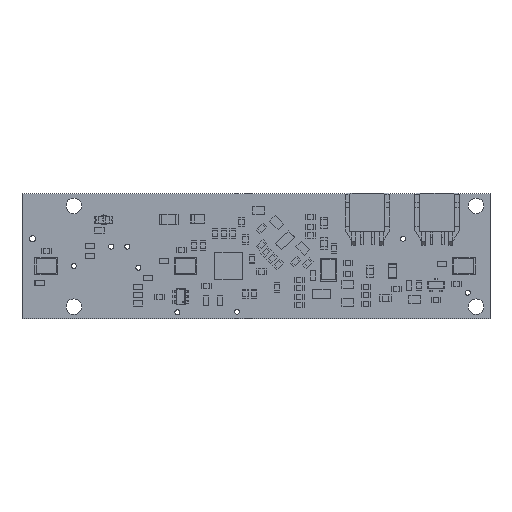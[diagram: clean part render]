
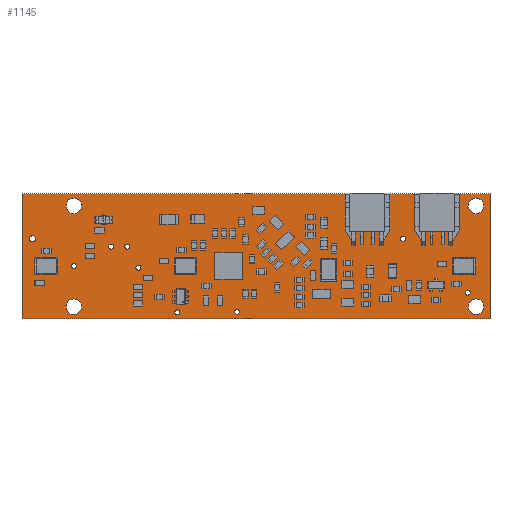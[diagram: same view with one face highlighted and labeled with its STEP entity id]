
A CAD part, top view. The second image highlights one B-rep face of the part: STEP entity #1145.
In plain terms, the highlighted planar face has unit normal (0, 0, 1).
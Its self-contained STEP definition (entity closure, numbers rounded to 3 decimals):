
#368 = VERTEX_POINT('',#369);
#369 = CARTESIAN_POINT('',(0.,0.,1.621));
#375 = EDGE_CURVE('',#368,#376,#378,.T.);
#376 = VERTEX_POINT('',#377);
#377 = CARTESIAN_POINT('',(84.,0.,1.621));
#378 = LINE('',#379,#380);
#379 = CARTESIAN_POINT('',(0.,0.,1.621));
#380 = VECTOR('',#381,1.);
#381 = DIRECTION('',(1.,0.,0.));
#406 = EDGE_CURVE('',#376,#407,#409,.T.);
#407 = VERTEX_POINT('',#408);
#408 = CARTESIAN_POINT('',(84.,22.5,1.621));
#409 = LINE('',#410,#411);
#410 = CARTESIAN_POINT('',(84.,0.,1.621));
#411 = VECTOR('',#412,1.);
#412 = DIRECTION('',(0.,1.,0.));
#437 = EDGE_CURVE('',#407,#438,#440,.T.);
#438 = VERTEX_POINT('',#439);
#439 = CARTESIAN_POINT('',(0.,22.5,1.621));
#440 = LINE('',#441,#442);
#441 = CARTESIAN_POINT('',(84.,22.5,1.621));
#442 = VECTOR('',#443,1.);
#443 = DIRECTION('',(-1.,0.,0.));
#468 = EDGE_CURVE('',#438,#368,#469,.T.);
#469 = LINE('',#470,#471);
#470 = CARTESIAN_POINT('',(0.,22.5,1.621));
#471 = VECTOR('',#472,1.);
#472 = DIRECTION('',(0.,-1.,0.));
#492 = VERTEX_POINT('',#493);
#493 = CARTESIAN_POINT('',(5.4,9.5,1.621));
#499 = EDGE_CURVE('',#492,#492,#500,.T.);
#500 = CIRCLE('',#501,0.4);
#501 = AXIS2_PLACEMENT_3D('',#502,#503,#504);
#502 = CARTESIAN_POINT('',(5.,9.5,1.621));
#503 = DIRECTION('',(0.,0.,1.));
#504 = DIRECTION('',(1.,0.,0.));
#525 = VERTEX_POINT('',#526);
#526 = CARTESIAN_POINT('',(9.75,9.5,1.621));
#532 = EDGE_CURVE('',#525,#525,#533,.T.);
#533 = CIRCLE('',#534,0.45);
#534 = AXIS2_PLACEMENT_3D('',#535,#536,#537);
#535 = CARTESIAN_POINT('',(9.3,9.5,1.621));
#536 = DIRECTION('',(0.,0.,1.));
#537 = DIRECTION('',(1.,0.,0.));
#558 = VERTEX_POINT('',#559);
#559 = CARTESIAN_POINT('',(10.7,2.2,1.621));
#565 = EDGE_CURVE('',#558,#558,#566,.T.);
#566 = CIRCLE('',#567,1.4);
#567 = AXIS2_PLACEMENT_3D('',#568,#569,#570);
#568 = CARTESIAN_POINT('',(9.3,2.2,1.621));
#569 = DIRECTION('',(0.,0.,1.));
#570 = DIRECTION('',(1.,0.,0.));
#591 = VERTEX_POINT('',#592);
#592 = CARTESIAN_POINT('',(21.35,9.2,1.621));
#598 = EDGE_CURVE('',#591,#591,#599,.T.);
#599 = CIRCLE('',#600,0.45);
#600 = AXIS2_PLACEMENT_3D('',#601,#602,#603);
#601 = CARTESIAN_POINT('',(20.9,9.2,1.621));
#602 = DIRECTION('',(0.,0.,1.));
#603 = DIRECTION('',(1.,0.,0.));
#624 = VERTEX_POINT('',#625);
#625 = CARTESIAN_POINT('',(2.45,14.4,1.621));
#631 = EDGE_CURVE('',#624,#624,#632,.T.);
#632 = CIRCLE('',#633,0.55);
#633 = AXIS2_PLACEMENT_3D('',#634,#635,#636);
#634 = CARTESIAN_POINT('',(1.9,14.4,1.621));
#635 = DIRECTION('',(0.,0.,1.));
#636 = DIRECTION('',(1.,0.,0.));
#657 = VERTEX_POINT('',#658);
#658 = CARTESIAN_POINT('',(10.7,20.3,1.621));
#664 = EDGE_CURVE('',#657,#657,#665,.T.);
#665 = CIRCLE('',#666,1.4);
#666 = AXIS2_PLACEMENT_3D('',#667,#668,#669);
#667 = CARTESIAN_POINT('',(9.3,20.3,1.621));
#668 = DIRECTION('',(0.,0.,1.));
#669 = DIRECTION('',(1.,0.,0.));
#690 = VERTEX_POINT('',#691);
#691 = CARTESIAN_POINT('',(19.35,13.,1.621));
#697 = EDGE_CURVE('',#690,#690,#698,.T.);
#698 = CIRCLE('',#699,0.45);
#699 = AXIS2_PLACEMENT_3D('',#700,#701,#702);
#700 = CARTESIAN_POINT('',(18.9,13.,1.621));
#701 = DIRECTION('',(0.,0.,1.));
#702 = DIRECTION('',(1.,0.,0.));
#723 = VERTEX_POINT('',#724);
#724 = CARTESIAN_POINT('',(15.575,17.8,1.621));
#730 = EDGE_CURVE('',#723,#723,#731,.T.);
#731 = CIRCLE('',#732,0.875);
#732 = AXIS2_PLACEMENT_3D('',#733,#734,#735);
#733 = CARTESIAN_POINT('',(14.7,17.8,1.621));
#734 = DIRECTION('',(0.,0.,1.));
#735 = DIRECTION('',(1.,0.,0.));
#756 = VERTEX_POINT('',#757);
#757 = CARTESIAN_POINT('',(16.45,13.,1.621));
#763 = EDGE_CURVE('',#756,#756,#764,.T.);
#764 = CIRCLE('',#765,0.45);
#765 = AXIS2_PLACEMENT_3D('',#766,#767,#768);
#766 = CARTESIAN_POINT('',(16.,13.,1.621));
#767 = DIRECTION('',(0.,0.,1.));
#768 = DIRECTION('',(1.,0.,0.));
#789 = VERTEX_POINT('',#790);
#790 = CARTESIAN_POINT('',(28.35,1.2,1.621));
#796 = EDGE_CURVE('',#789,#789,#797,.T.);
#797 = CIRCLE('',#798,0.45);
#798 = AXIS2_PLACEMENT_3D('',#799,#800,#801);
#799 = CARTESIAN_POINT('',(27.9,1.2,1.621));
#800 = DIRECTION('',(0.,0.,1.));
#801 = DIRECTION('',(1.,0.,0.));
#822 = VERTEX_POINT('',#823);
#823 = CARTESIAN_POINT('',(39.05,1.3,1.621));
#829 = EDGE_CURVE('',#822,#822,#830,.T.);
#830 = CIRCLE('',#831,0.45);
#831 = AXIS2_PLACEMENT_3D('',#832,#833,#834);
#832 = CARTESIAN_POINT('',(38.6,1.3,1.621));
#833 = DIRECTION('',(0.,0.,1.));
#834 = DIRECTION('',(1.,0.,0.));
#855 = VERTEX_POINT('',#856);
#856 = CARTESIAN_POINT('',(82.9,2.2,1.621));
#862 = EDGE_CURVE('',#855,#855,#863,.T.);
#863 = CIRCLE('',#864,1.4);
#864 = AXIS2_PLACEMENT_3D('',#865,#866,#867);
#865 = CARTESIAN_POINT('',(81.5,2.2,1.621));
#866 = DIRECTION('',(0.,0.,1.));
#867 = DIRECTION('',(1.,0.,0.));
#888 = VERTEX_POINT('',#889);
#889 = CARTESIAN_POINT('',(80.45,4.7,1.621));
#895 = EDGE_CURVE('',#888,#888,#896,.T.);
#896 = CIRCLE('',#897,0.45);
#897 = AXIS2_PLACEMENT_3D('',#898,#899,#900);
#898 = CARTESIAN_POINT('',(80.,4.7,1.621));
#899 = DIRECTION('',(0.,0.,1.));
#900 = DIRECTION('',(1.,0.,0.));
#921 = VERTEX_POINT('',#922);
#922 = CARTESIAN_POINT('',(55.4,9.48,1.621));
#928 = EDGE_CURVE('',#921,#921,#929,.T.);
#929 = CIRCLE('',#930,0.4);
#930 = AXIS2_PLACEMENT_3D('',#931,#932,#933);
#931 = CARTESIAN_POINT('',(55.,9.48,1.621));
#932 = DIRECTION('',(0.,0.,1.));
#933 = DIRECTION('',(1.,0.,0.));
#954 = VERTEX_POINT('',#955);
#955 = CARTESIAN_POINT('',(30.4,9.5,1.621));
#961 = EDGE_CURVE('',#954,#954,#962,.T.);
#962 = CIRCLE('',#963,0.4);
#963 = AXIS2_PLACEMENT_3D('',#964,#965,#966);
#964 = CARTESIAN_POINT('',(30.,9.5,1.621));
#965 = DIRECTION('',(0.,0.,1.));
#966 = DIRECTION('',(1.,0.,0.));
#987 = VERTEX_POINT('',#988);
#988 = CARTESIAN_POINT('',(80.4,9.5,1.621));
#994 = EDGE_CURVE('',#987,#987,#995,.T.);
#995 = CIRCLE('',#996,0.4);
#996 = AXIS2_PLACEMENT_3D('',#997,#998,#999);
#997 = CARTESIAN_POINT('',(80.,9.5,1.621));
#998 = DIRECTION('',(0.,0.,1.));
#999 = DIRECTION('',(1.,0.,0.));
#1020 = VERTEX_POINT('',#1021);
#1021 = CARTESIAN_POINT('',(68.85,14.4,1.621));
#1027 = EDGE_CURVE('',#1020,#1020,#1028,.T.);
#1028 = CIRCLE('',#1029,0.45);
#1029 = AXIS2_PLACEMENT_3D('',#1030,#1031,#1032);
#1030 = CARTESIAN_POINT('',(68.4,14.4,1.621));
#1031 = DIRECTION('',(0.,0.,1.));
#1032 = DIRECTION('',(1.,0.,0.));
#1053 = VERTEX_POINT('',#1054);
#1054 = CARTESIAN_POINT('',(82.9,20.3,1.621));
#1060 = EDGE_CURVE('',#1053,#1053,#1061,.T.);
#1061 = CIRCLE('',#1062,1.4);
#1062 = AXIS2_PLACEMENT_3D('',#1063,#1064,#1065);
#1063 = CARTESIAN_POINT('',(81.5,20.3,1.621));
#1064 = DIRECTION('',(0.,0.,1.));
#1065 = DIRECTION('',(1.,0.,0.));
#1145 = ADVANCED_FACE('',(#1146,#1152,#1155,#1158,#1161,#1164,#1167,
    #1170,#1173,#1176,#1179,#1182,#1185,#1188,#1191,#1194,#1197,#1200,
    #1203),#1206,.F.);
#1146 = FACE_BOUND('',#1147,.T.);
#1147 = EDGE_LOOP('',(#1148,#1149,#1150,#1151));
#1148 = ORIENTED_EDGE('',*,*,#375,.T.);
#1149 = ORIENTED_EDGE('',*,*,#406,.T.);
#1150 = ORIENTED_EDGE('',*,*,#437,.T.);
#1151 = ORIENTED_EDGE('',*,*,#468,.T.);
#1152 = FACE_BOUND('',#1153,.F.);
#1153 = EDGE_LOOP('',(#1154));
#1154 = ORIENTED_EDGE('',*,*,#499,.T.);
#1155 = FACE_BOUND('',#1156,.F.);
#1156 = EDGE_LOOP('',(#1157));
#1157 = ORIENTED_EDGE('',*,*,#532,.T.);
#1158 = FACE_BOUND('',#1159,.F.);
#1159 = EDGE_LOOP('',(#1160));
#1160 = ORIENTED_EDGE('',*,*,#565,.T.);
#1161 = FACE_BOUND('',#1162,.F.);
#1162 = EDGE_LOOP('',(#1163));
#1163 = ORIENTED_EDGE('',*,*,#598,.T.);
#1164 = FACE_BOUND('',#1165,.F.);
#1165 = EDGE_LOOP('',(#1166));
#1166 = ORIENTED_EDGE('',*,*,#631,.T.);
#1167 = FACE_BOUND('',#1168,.F.);
#1168 = EDGE_LOOP('',(#1169));
#1169 = ORIENTED_EDGE('',*,*,#664,.T.);
#1170 = FACE_BOUND('',#1171,.F.);
#1171 = EDGE_LOOP('',(#1172));
#1172 = ORIENTED_EDGE('',*,*,#697,.T.);
#1173 = FACE_BOUND('',#1174,.F.);
#1174 = EDGE_LOOP('',(#1175));
#1175 = ORIENTED_EDGE('',*,*,#730,.T.);
#1176 = FACE_BOUND('',#1177,.F.);
#1177 = EDGE_LOOP('',(#1178));
#1178 = ORIENTED_EDGE('',*,*,#763,.T.);
#1179 = FACE_BOUND('',#1180,.F.);
#1180 = EDGE_LOOP('',(#1181));
#1181 = ORIENTED_EDGE('',*,*,#796,.T.);
#1182 = FACE_BOUND('',#1183,.F.);
#1183 = EDGE_LOOP('',(#1184));
#1184 = ORIENTED_EDGE('',*,*,#829,.T.);
#1185 = FACE_BOUND('',#1186,.F.);
#1186 = EDGE_LOOP('',(#1187));
#1187 = ORIENTED_EDGE('',*,*,#862,.T.);
#1188 = FACE_BOUND('',#1189,.F.);
#1189 = EDGE_LOOP('',(#1190));
#1190 = ORIENTED_EDGE('',*,*,#895,.T.);
#1191 = FACE_BOUND('',#1192,.F.);
#1192 = EDGE_LOOP('',(#1193));
#1193 = ORIENTED_EDGE('',*,*,#928,.T.);
#1194 = FACE_BOUND('',#1195,.F.);
#1195 = EDGE_LOOP('',(#1196));
#1196 = ORIENTED_EDGE('',*,*,#961,.T.);
#1197 = FACE_BOUND('',#1198,.F.);
#1198 = EDGE_LOOP('',(#1199));
#1199 = ORIENTED_EDGE('',*,*,#994,.T.);
#1200 = FACE_BOUND('',#1201,.F.);
#1201 = EDGE_LOOP('',(#1202));
#1202 = ORIENTED_EDGE('',*,*,#1027,.T.);
#1203 = FACE_BOUND('',#1204,.F.);
#1204 = EDGE_LOOP('',(#1205));
#1205 = ORIENTED_EDGE('',*,*,#1060,.T.);
#1206 = PLANE('',#1207);
#1207 = AXIS2_PLACEMENT_3D('',#1208,#1209,#1210);
#1208 = CARTESIAN_POINT('',(0.,0.,1.621));
#1209 = DIRECTION('',(0.,0.,-1.));
#1210 = DIRECTION('',(-1.,0.,0.));
